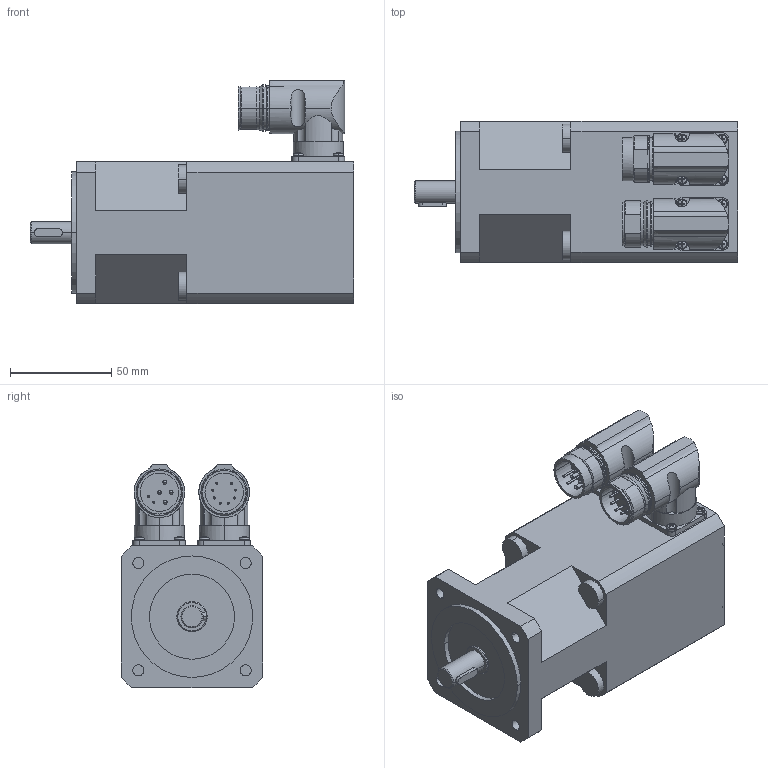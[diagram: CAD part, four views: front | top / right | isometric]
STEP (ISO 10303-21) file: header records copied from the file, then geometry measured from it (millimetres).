
FILE_DESCRIPTION((''),'2;1');
FILE_NAME('ACG0060.stp','2005-05-19T13:37:10',(''),(''),'Mechanical Desktop 2005','Mechanical Desktop 2005',', , ');
FILE_SCHEMA(('AUTOMOTIVE_DESIGN { 1 2 10303 214 0 1 1 1 }'));
Length unit declared in the file: millimetre
Products named in the file (2): ACG0060; CARCASA
Assembly tree (1 placements, depth 2):
  ACG0060
    CARCASA
Bounding box: 160 x 70 x 110.22 mm (x, y, z)
Volume: 679020.7 mm3; surface area: 62637.4 mm2
Topology: 1 solids, 1 shells, 636 faces, 1547 edges, 918 vertices
Faces by surface type: plane 290, cylinder 192, cone 94, sphere 32, torus 24, bspline 4
Entity records: 19670 total; most frequent: CARTESIAN_POINT 5007, DIRECTION 3191, ORIENTED_EDGE 3006, EDGE_CURVE 1503, AXIS2_PLACEMENT_3D 1274, VERTEX_POINT 918, EDGE_LOOP 693, VECTOR 643
